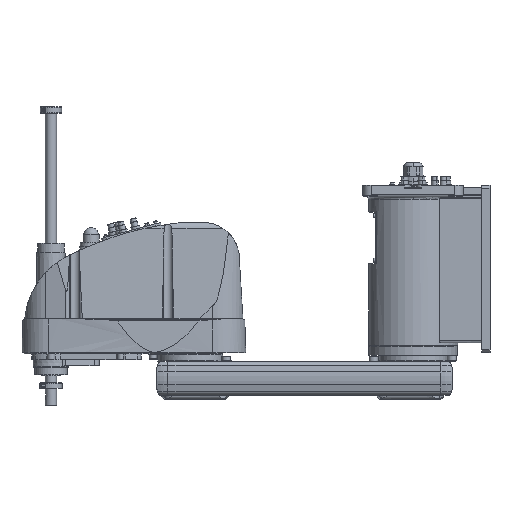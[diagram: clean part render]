
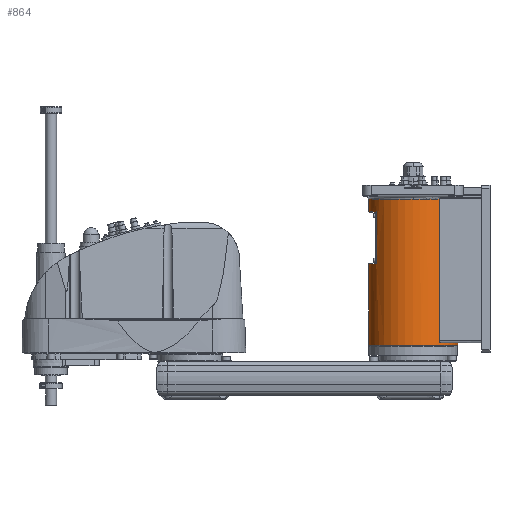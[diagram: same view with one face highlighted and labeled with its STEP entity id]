
A CAD part, top view. The second image highlights one B-rep face of the part: STEP entity #864.
In plain terms, the highlighted cylindrical face has radius 80 mm (diameter 160 mm), a partial arc.
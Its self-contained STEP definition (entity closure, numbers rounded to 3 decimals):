
#864 = ADVANCED_FACE( '', ( #3261 ), #3262, .T. );
#3261 = FACE_OUTER_BOUND( '', #6801, .T. );
#3262 = CYLINDRICAL_SURFACE( '', #6802, 80. );
#6801 = EDGE_LOOP( '', ( #14047, #14048, #14049, #14050, #14051, #14052, #14053, #14054, #14055, #14056, #14057, #14058 ) );
#6802 = AXIS2_PLACEMENT_3D( '', #14059, #14060, #14061 );
#14047 = ORIENTED_EDGE( '', *, *, #21892, .T. );
#14048 = ORIENTED_EDGE( '', *, *, #23367, .T. );
#14049 = ORIENTED_EDGE( '', *, *, #23364, .T. );
#14050 = ORIENTED_EDGE( '', *, *, #23361, .T. );
#14051 = ORIENTED_EDGE( '', *, *, #21943, .F. );
#14052 = ORIENTED_EDGE( '', *, *, #21949, .F. );
#14053 = ORIENTED_EDGE( '', *, *, #21898, .T. );
#14054 = ORIENTED_EDGE( '', *, *, #23179, .T. );
#14055 = ORIENTED_EDGE( '', *, *, #23181, .T. );
#14056 = ORIENTED_EDGE( '', *, *, #23182, .T. );
#14057 = ORIENTED_EDGE( '', *, *, #21894, .T. );
#14058 = ORIENTED_EDGE( '', *, *, #23482, .T. );
#14059 = CARTESIAN_POINT( '', ( 0., 160.75, 0. ) );
#14060 = DIRECTION( '', ( 0., -1., 0. ) );
#14061 = DIRECTION( '', ( 1., 0., 0. ) );
#21892 = EDGE_CURVE( '', #25904, #25905, #25906, .T. );
#21894 = EDGE_CURVE( '', #25909, #25907, #25910, .T. );
#21898 = EDGE_CURVE( '', #25917, #25915, #25918, .T. );
#21943 = EDGE_CURVE( '', #26003, #26005, #26006, .T. );
#21949 = EDGE_CURVE( '', #25917, #26003, #26016, .T. );
#23179 = EDGE_CURVE( '', #25915, #28051, #28053, .T. );
#23181 = EDGE_CURVE( '', #28051, #28054, #28056, .T. );
#23182 = EDGE_CURVE( '', #28054, #25909, #28057, .T. );
#23361 = EDGE_CURVE( '', #28342, #26005, #28343, .T. );
#23364 = EDGE_CURVE( '', #28346, #28342, #28347, .T. );
#23367 = EDGE_CURVE( '', #25905, #28346, #28350, .T. );
#23482 = EDGE_CURVE( '', #25907, #25904, #28524, .T. );
#25904 = VERTEX_POINT( '', #32508 );
#25905 = VERTEX_POINT( '', #32509 );
#25906 = LINE( '', #32510, #32511 );
#25907 = VERTEX_POINT( '', #32512 );
#25909 = VERTEX_POINT( '', #32514 );
#25910 = LINE( '', #32515, #32516 );
#25915 = VERTEX_POINT( '', #32522 );
#25917 = VERTEX_POINT( '', #32524 );
#25918 = LINE( '', #32525, #32526 );
#26003 = VERTEX_POINT( '', #32647 );
#26005 = VERTEX_POINT( '', #32649 );
#26006 = CIRCLE( '', #32650, 80. );
#26016 = CIRCLE( '', #32697, 80. );
#28051 = VERTEX_POINT( '', #35556 );
#28053 = CIRCLE( '', #35559, 80. );
#28054 = VERTEX_POINT( '', #35560 );
#28056 = LINE( '', #35563, #35564 );
#28057 = CIRCLE( '', #35565, 80. );
#28342 = VERTEX_POINT( '', #36043 );
#28343 = LINE( '', #36044, #36045 );
#28346 = VERTEX_POINT( '', #36050 );
#28347 = B_SPLINE_CURVE_WITH_KNOTS( '', 3, ( #36051, #36052, #36053, #36054, #36055, #36056, #36057, #36058, #36059, #36060, #36061, #36062, #36063, #36064, #36065, #36066 ), .UNSPECIFIED., .F., .F., ( 4, 2, 2, 2, 2, 2, 2, 4 ), ( -6.06, -5.11, -4.16, -2.26, -1.695, -1.13, -0.565, 0. ), .UNSPECIFIED. );
#28350 = CIRCLE( '', #36071, 80. );
#28524 = CIRCLE( '', #36446, 80. );
#32508 = CARTESIAN_POINT( '', ( 80., 30., 0. ) );
#32509 = CARTESIAN_POINT( '', ( 80., 34.5, 0. ) );
#32510 = CARTESIAN_POINT( '', ( 80., 160.75, 0. ) );
#32511 = VECTOR( '', #45173, 1. );
#32512 = CARTESIAN_POINT( '', ( -80., 30., 0. ) );
#32514 = CARTESIAN_POINT( '', ( -80., 176., 0. ) );
#32515 = CARTESIAN_POINT( '', ( -80., 160.75, 0. ) );
#32516 = VECTOR( '', #45177, 1. );
#32522 = CARTESIAN_POINT( '', ( -80., 269., 0. ) );
#32524 = CARTESIAN_POINT( '', ( -80., 291.5, 0. ) );
#32525 = CARTESIAN_POINT( '', ( -80., 160.75, 0. ) );
#32526 = VECTOR( '', #45185, 1. );
#32647 = CARTESIAN_POINT( '', ( 0., 291.5, 80. ) );
#32649 = CARTESIAN_POINT( '', ( 46.637, 291.5, 65. ) );
#32650 = AXIS2_PLACEMENT_3D( '', #45273, #45274, #45275 );
#32697 = AXIS2_PLACEMENT_3D( '', #45282, #45283, #45284 );
#35556 = CARTESIAN_POINT( '', ( -66., 269., 45.211 ) );
#35559 = AXIS2_PLACEMENT_3D( '', #47414, #47415, #47416 );
#35560 = CARTESIAN_POINT( '', ( -66., 176., 45.211 ) );
#35563 = CARTESIAN_POINT( '', ( -66., 222.5, 45.211 ) );
#35564 = VECTOR( '', #47418, 1. );
#35565 = AXIS2_PLACEMENT_3D( '', #47419, #47420, #47421 );
#36043 = CARTESIAN_POINT( '', ( 46.637, 37.5, 65. ) );
#36044 = CARTESIAN_POINT( '', ( 46.637, 164.5, 65. ) );
#36045 = VECTOR( '', #47662, 1. );
#36050 = CARTESIAN_POINT( '', ( 50.557, 34.5, 62. ) );
#36051 = CARTESIAN_POINT( '', ( 50.557, 34.5, 62. ) );
#36052 = CARTESIAN_POINT( '', ( 50.312, 34.5, 62.2 ) );
#36053 = CARTESIAN_POINT( '', ( 50.054, 34.52, 62.407 ) );
#36054 = CARTESIAN_POINT( '', ( 49.533, 34.607, 62.822 ) );
#36055 = CARTESIAN_POINT( '', ( 49.269, 34.674, 63.029 ) );
#36056 = CARTESIAN_POINT( '', ( 48.491, 34.945, 63.632 ) );
#36057 = CARTESIAN_POINT( '', ( 47.991, 35.221, 64.009 ) );
#36058 = CARTESIAN_POINT( '', ( 47.455, 35.701, 64.405 ) );
#36059 = CARTESIAN_POINT( '', ( 47.333, 35.827, 64.495 ) );
#36060 = CARTESIAN_POINT( '', ( 47.106, 36.105, 64.661 ) );
#36061 = CARTESIAN_POINT( '', ( 47.002, 36.258, 64.736 ) );
#36062 = CARTESIAN_POINT( '', ( 46.828, 36.585, 64.863 ) );
#36063 = CARTESIAN_POINT( '', ( 46.758, 36.761, 64.913 ) );
#36064 = CARTESIAN_POINT( '', ( 46.662, 37.124, 64.982 ) );
#36065 = CARTESIAN_POINT( '', ( 46.637, 37.312, 65. ) );
#36066 = CARTESIAN_POINT( '', ( 46.637, 37.5, 65. ) );
#36071 = AXIS2_PLACEMENT_3D( '', #47667, #47668, #47669 );
#36446 = AXIS2_PLACEMENT_3D( '', #47849, #47850, #47851 );
#45173 = DIRECTION( '', ( 0., 1., 0. ) );
#45177 = DIRECTION( '', ( 0., -1., 0. ) );
#45185 = DIRECTION( '', ( 0., -1., 0. ) );
#45273 = CARTESIAN_POINT( '', ( 0., 291.5, 0. ) );
#45274 = DIRECTION( '', ( 0., 1., 0. ) );
#45275 = DIRECTION( '', ( 1., 0., 0. ) );
#45282 = CARTESIAN_POINT( '', ( 0., 291.5, 0. ) );
#45283 = DIRECTION( '', ( 0., 1., 0. ) );
#45284 = DIRECTION( '', ( 1., 0., 0. ) );
#47414 = CARTESIAN_POINT( '', ( 0., 269., 0. ) );
#47415 = DIRECTION( '', ( 0., 1., 0. ) );
#47416 = DIRECTION( '', ( 1., 0., 0. ) );
#47418 = DIRECTION( '', ( 0., -1., 0. ) );
#47419 = CARTESIAN_POINT( '', ( 0., 176., 0. ) );
#47420 = DIRECTION( '', ( 0., -1., 0. ) );
#47421 = DIRECTION( '', ( 1., 0., 0. ) );
#47662 = DIRECTION( '', ( 0., 1., 0. ) );
#47667 = CARTESIAN_POINT( '', ( 0., 34.5, 0. ) );
#47668 = DIRECTION( '', ( 0., -1., 0. ) );
#47669 = DIRECTION( '', ( 1., 0., 0. ) );
#47849 = CARTESIAN_POINT( '', ( 0., 30., 0. ) );
#47850 = DIRECTION( '', ( 0., 1., 0. ) );
#47851 = DIRECTION( '', ( 1., 0., 0. ) );
